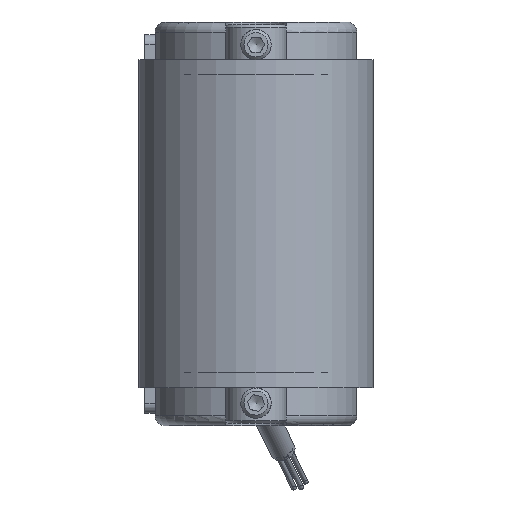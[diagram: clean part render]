
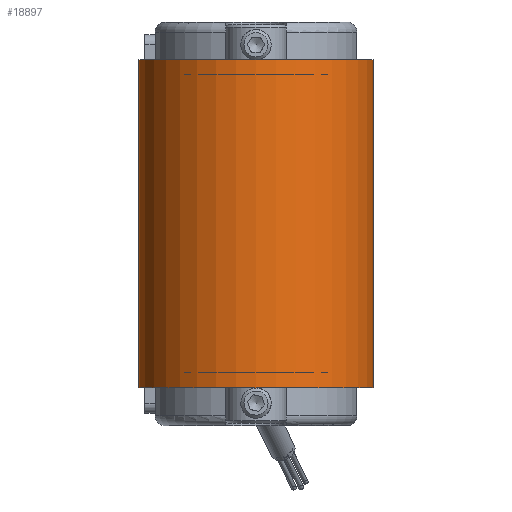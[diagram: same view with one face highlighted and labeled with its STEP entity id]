
A CAD part, front view. The second image highlights one B-rep face of the part: STEP entity #18897.
In plain terms, the highlighted cylindrical face has radius 23.3 mm (diameter 46.6 mm), a partial arc.
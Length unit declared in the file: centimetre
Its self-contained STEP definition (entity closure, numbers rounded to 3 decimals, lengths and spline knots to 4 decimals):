
#1478=FACE_OUTER_BOUND('',#2501,.T.);
#2501=EDGE_LOOP('',(#13037,#13038,#13039,#13040));
#3668=CIRCLE('',#20217,2.33);
#3671=CIRCLE('',#20223,2.33);
#4627=LINE('',#27806,#6163);
#4628=LINE('',#27810,#6164);
#6163=VECTOR('',#22807,1.);
#6164=VECTOR('',#22812,1.);
#7748=VERTEX_POINT('',#27789);
#7749=VERTEX_POINT('',#27790);
#7754=VERTEX_POINT('',#27804);
#7755=VERTEX_POINT('',#27808);
#9804=EDGE_CURVE('',#7748,#7749,#3668,.T.);
#9812=EDGE_CURVE('',#7754,#7749,#4627,.T.);
#9813=EDGE_CURVE('',#7754,#7755,#3671,.T.);
#9814=EDGE_CURVE('',#7748,#7755,#4628,.T.);
#13037=ORIENTED_EDGE('',*,*,#9813,.T.);
#13038=ORIENTED_EDGE('',*,*,#9814,.F.);
#13039=ORIENTED_EDGE('',*,*,#9804,.T.);
#13040=ORIENTED_EDGE('',*,*,#9812,.F.);
#17520=CYLINDRICAL_SURFACE('',#20222,2.33);
#18897=ADVANCED_FACE('',(#1478),#17520,.T.);
#20217=AXIS2_PLACEMENT_3D('',#27791,#22792,#22793);
#20222=AXIS2_PLACEMENT_3D('',#27807,#22808,#22809);
#20223=AXIS2_PLACEMENT_3D('',#27809,#22810,#22811);
#22792=DIRECTION('center_axis',(0.,0.,
-1.));
#22793=DIRECTION('ref_axis',(-1.,0.,0.));
#22807=DIRECTION('',(0.,0.,1.));
#22808=DIRECTION('center_axis',(0.,0.,
-1.));
#22809=DIRECTION('ref_axis',(-1.,0.,0.));
#22810=DIRECTION('center_axis',(0.,0.,
1.));
#22811=DIRECTION('ref_axis',(-1.,0.,0.));
#22812=DIRECTION('',(0.,0.,-1.));
#27789=CARTESIAN_POINT('',(2.33,-22.,3.25));
#27790=CARTESIAN_POINT('',(-2.33,-22.,3.25));
#27791=CARTESIAN_POINT('Origin',(0.,-22.,
3.25));
#27804=CARTESIAN_POINT('',(-2.33,-22.,-3.25));
#27806=CARTESIAN_POINT('',(-2.33,-22.,0.));
#27807=CARTESIAN_POINT('Origin',(0.,-22.,
0.));
#27808=CARTESIAN_POINT('',(2.33,-22.,-3.25));
#27809=CARTESIAN_POINT('Origin',(0.,-22.,
-3.25));
#27810=CARTESIAN_POINT('',(2.33,-22.,0.));
